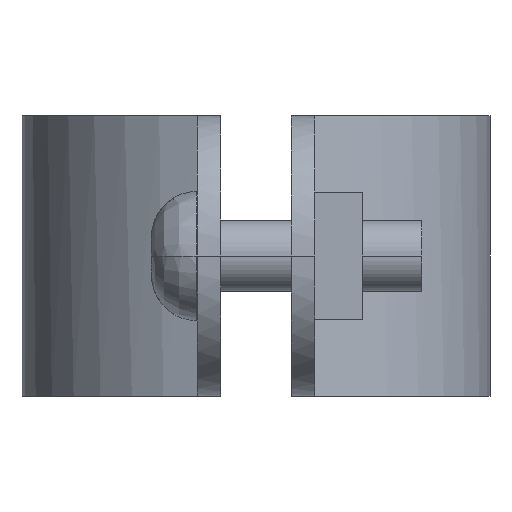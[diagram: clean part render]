
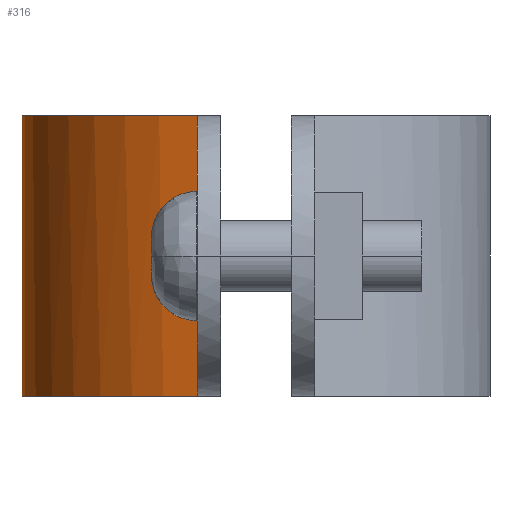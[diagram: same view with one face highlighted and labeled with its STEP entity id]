
A CAD part, left-side view. The second image highlights one B-rep face of the part: STEP entity #316.
In plain terms, the highlighted free-form (B-spline) face has degree [3, 1] with [4, 2] control points.
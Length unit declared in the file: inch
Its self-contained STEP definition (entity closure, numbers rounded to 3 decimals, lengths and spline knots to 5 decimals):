
#316=ADVANCED_FACE('',(#599),#600,.T.);
#599=FACE_OUTER_BOUND('',#1323,.T.);
#600=B_SPLINE_SURFACE_WITH_KNOTS('',3,1,((#1324,#1325),(#1326,#1327),(#1328,#1329),(#1330,#1331)),.UNSPECIFIED.,.F.,.F.,.F.,(4,4),(2,2),(0.0,1.0),(0.0,1.25),.UNSPECIFIED.);
#1323=EDGE_LOOP('',(#1931,#1932,#1933,#1934));
#1324=CARTESIAN_POINT('',(1.75113,2.32411,0.0));
#1325=CARTESIAN_POINT('',(1.75113,2.32411,1.25));
#1326=CARTESIAN_POINT('',(1.2759,2.32411,0.0));
#1327=CARTESIAN_POINT('',(1.2759,2.32411,1.25));
#1328=CARTESIAN_POINT('',(0.86081,2.00275,0.0));
#1329=CARTESIAN_POINT('',(0.86081,2.00275,1.25));
#1330=CARTESIAN_POINT('',(0.74169,1.54273,0.0));
#1331=CARTESIAN_POINT('',(0.74169,1.54273,1.25));
#1931=ORIENTED_EDGE('',*,*,#2232,.T.);
#1932=ORIENTED_EDGE('',*,*,#2220,.T.);
#1933=ORIENTED_EDGE('',*,*,#2263,.T.);
#1934=ORIENTED_EDGE('',*,*,#2303,.F.);
#2220=EDGE_CURVE('',#2595,#2599,#2601,.T.);
#2232=EDGE_CURVE('',#2614,#2595,#2618,.T.);
#2263=EDGE_CURVE('',#2599,#2656,#2658,.T.);
#2303=EDGE_CURVE('',#2614,#2656,#2704,.T.);
#2595=VERTEX_POINT('',#3312);
#2599=VERTEX_POINT('',#3320);
#2601=LINE('',#3323,#3324);
#2614=VERTEX_POINT('',#3346);
#2618=B_SPLINE_CURVE_WITH_KNOTS('',3,(#3355,#3356,#3357,#3358),.UNSPECIFIED.,.F.,.F.,(4,4),(0.0,1.0),.UNSPECIFIED.);
#2656=VERTEX_POINT('',#3418);
#2658=B_SPLINE_CURVE_WITH_KNOTS('',3,(#3421,#3422,#3423,#3424),.UNSPECIFIED.,.F.,.F.,(4,4),(-1.0,-0.0),.UNSPECIFIED.);
#2704=LINE('',#3504,#3505);
#3312=CARTESIAN_POINT('',(0.74169,1.54273,0.00011));
#3320=CARTESIAN_POINT('',(0.74169,1.54273,1.24989));
#3323=CARTESIAN_POINT('',(0.74169,1.54273,0.0));
#3324=VECTOR('',#3652,1.0);
#3346=CARTESIAN_POINT('',(1.75113,2.32411,0.00011));
#3355=CARTESIAN_POINT('',(1.75113,2.32411,0.00011));
#3356=CARTESIAN_POINT('',(1.2759,2.32411,0.00011));
#3357=CARTESIAN_POINT('',(0.86081,2.00275,0.00011));
#3358=CARTESIAN_POINT('',(0.74169,1.54273,0.00011));
#3418=CARTESIAN_POINT('',(1.75113,2.32411,1.24989));
#3421=CARTESIAN_POINT('',(0.74169,1.54273,1.24989));
#3422=CARTESIAN_POINT('',(0.86081,2.00275,1.24989));
#3423=CARTESIAN_POINT('',(1.2759,2.32411,1.24989));
#3424=CARTESIAN_POINT('',(1.75113,2.32411,1.24989));
#3504=CARTESIAN_POINT('',(1.75113,2.32411,0.0));
#3505=VECTOR('',#3691,1.0);
#3652=DIRECTION('',(0.0,0.0,1.0));
#3691=DIRECTION('',(0.0,0.0,1.0));
